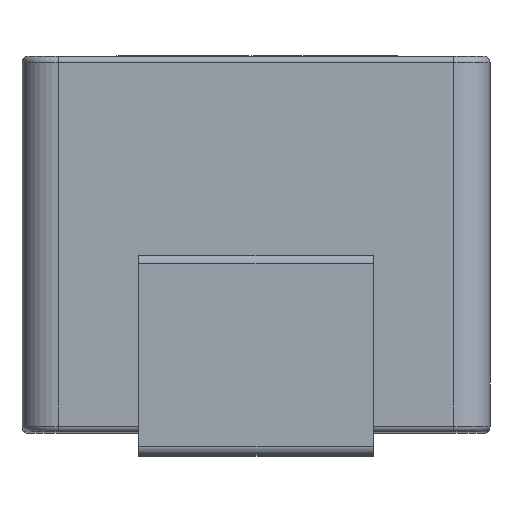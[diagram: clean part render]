
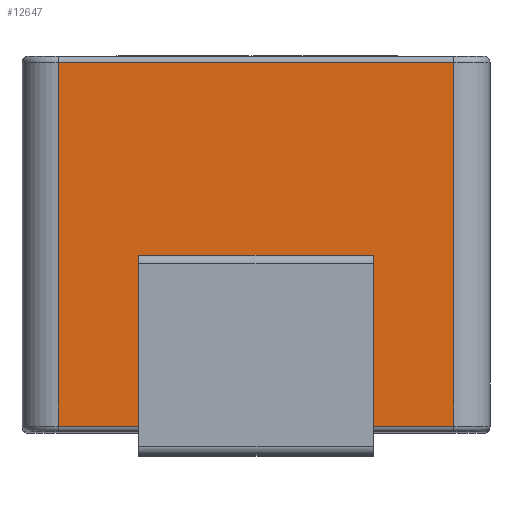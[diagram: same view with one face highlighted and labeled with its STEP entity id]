
A CAD part, top view. The second image highlights one B-rep face of the part: STEP entity #12647.
In plain terms, the highlighted planar face has unit normal (0, 0, 1) as drawn and (-1, 0, 0) by its records, which use the part's own axes.
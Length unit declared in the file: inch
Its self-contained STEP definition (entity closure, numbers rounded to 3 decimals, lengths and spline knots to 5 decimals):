
#426 = VERTEX_POINT ( 'NONE', #12191 ) ;
#480 = CARTESIAN_POINT ( 'NONE',  ( -0.36, -0.128, 0.17125 ) ) ;
#608 = CARTESIAN_POINT ( 'NONE',  ( -0.36, 0., -0.1015 ) ) ;
#697 = EDGE_CURVE ( 'NONE', #4730, #19595, #12068, .T. ) ;
#945 = EDGE_CURVE ( 'NONE', #20387, #4712, #17195, .T. ) ;
#976 = EDGE_LOOP ( 'NONE', ( #2443, #11106, #3647, #17189 ) ) ;
#1442 = ORIENTED_EDGE ( 'NONE', *, *, #945, .T. ) ;
#1758 = VECTOR ( 'NONE', #18277, 39.37008 ) ;
#1908 = CARTESIAN_POINT ( 'NONE',  ( -0.36, -0.128, 0.2025 ) ) ;
#2319 = ORIENTED_EDGE ( 'NONE', *, *, #7033, .F. ) ;
#2330 = VERTEX_POINT ( 'NONE', #608 ) ;
#2443 = ORIENTED_EDGE ( 'NONE', *, *, #697, .T. ) ;
#2965 = VECTOR ( 'NONE', #13977, 39.37008 ) ;
#3468 = DIRECTION ( 'NONE',  ( 0., -1., 0. ) ) ;
#3579 = DIRECTION ( 'NONE',  ( 0., -1., 0. ) ) ;
#3584 = CARTESIAN_POINT ( 'NONE',  ( -0.36, 0., 0.1015 ) ) ;
#3623 = VECTOR ( 'NONE', #16413, 39.37008 ) ;
#3647 = ORIENTED_EDGE ( 'NONE', *, *, #14501, .T. ) ;
#3675 = CARTESIAN_POINT ( 'NONE',  ( -0.36, 0.192, 0.2025 ) ) ;
#4016 = EDGE_CURVE ( 'NONE', #7789, #20387, #4589, .T. ) ;
#4589 = LINE ( 'NONE', #15646, #17259 ) ;
#4712 = VERTEX_POINT ( 'NONE', #3584 ) ;
#4730 = VERTEX_POINT ( 'NONE', #14629 ) ;
#5211 = PLANE ( 'NONE',  #19081 ) ;
#6196 = VECTOR ( 'NONE', #3468, 39.37008 ) ;
#6377 = CARTESIAN_POINT ( 'NONE',  ( -0.36, 0.187, 0.17125 ) ) ;
#6658 = LINE ( 'NONE', #6759, #16116 ) ;
#6759 = CARTESIAN_POINT ( 'NONE',  ( -0.36, 0.192, -0.17125 ) ) ;
#7033 = EDGE_CURVE ( 'NONE', #2330, #4712, #8742, .T. ) ;
#7711 = DIRECTION ( 'NONE',  ( 0., 1., 0. ) ) ;
#7789 = VERTEX_POINT ( 'NONE', #16334 ) ;
#8357 = VECTOR ( 'NONE', #15750, 39.37008 ) ;
#8613 = VECTOR ( 'NONE', #7711, 39.37008 ) ;
#8728 = CARTESIAN_POINT ( 'NONE',  ( -0.36, 0., 0.1015 ) ) ;
#8742 = LINE ( 'NONE', #10210, #3623 ) ;
#8900 = DIRECTION ( 'NONE',  ( 0., 1., 0. ) ) ;
#9733 = ORIENTED_EDGE ( 'NONE', *, *, #12226, .F. ) ;
#9959 = EDGE_LOOP ( 'NONE', ( #9733, #10314, #1442, #2319 ) ) ;
#10210 = CARTESIAN_POINT ( 'NONE',  ( -0.36, 0., -0.1015 ) ) ;
#10314 = ORIENTED_EDGE ( 'NONE', *, *, #4016, .T. ) ;
#11106 = ORIENTED_EDGE ( 'NONE', *, *, #12622, .T. ) ;
#11189 = DIRECTION ( 'NONE',  ( 0., 0., 1. ) ) ;
#11595 = CARTESIAN_POINT ( 'NONE',  ( -0.36, 0.187, -0.17125 ) ) ;
#11965 = CARTESIAN_POINT ( 'NONE',  ( -0.36, 0.187, 0.2025 ) ) ;
#12068 = LINE ( 'NONE', #11965, #1758 ) ;
#12191 = CARTESIAN_POINT ( 'NONE',  ( -0.36, -0.128, -0.17125 ) ) ;
#12226 = EDGE_CURVE ( 'NONE', #7789, #2330, #19152, .T. ) ;
#12622 = EDGE_CURVE ( 'NONE', #19595, #426, #6658, .T. ) ;
#12625 = VERTEX_POINT ( 'NONE', #480 ) ;
#12647 = ADVANCED_FACE ( 'NONE', ( #13058, #19349 ), #5211, .F. ) ;
#13058 = FACE_OUTER_BOUND ( 'NONE', #976, .T. ) ;
#13802 = LINE ( 'NONE', #1908, #8357 ) ;
#13977 = DIRECTION ( 'NONE',  ( 0., -1., 0. ) ) ;
#14027 = CARTESIAN_POINT ( 'NONE',  ( -0.36, 0.02, 0.1015 ) ) ;
#14501 = EDGE_CURVE ( 'NONE', #426, #12625, #13802, .T. ) ;
#14629 = CARTESIAN_POINT ( 'NONE',  ( -0.36, 0.187, 0.17125 ) ) ;
#15646 = CARTESIAN_POINT ( 'NONE',  ( -0.36, 0.02, -0.1015 ) ) ;
#15750 = DIRECTION ( 'NONE',  ( 0., 0., 1. ) ) ;
#15790 = LINE ( 'NONE', #6377, #8613 ) ;
#16116 = VECTOR ( 'NONE', #3579, 39.37008 ) ;
#16334 = CARTESIAN_POINT ( 'NONE',  ( -0.36, 0.02, -0.1015 ) ) ;
#16413 = DIRECTION ( 'NONE',  ( 0., 0., 1. ) ) ;
#16890 = DIRECTION ( 'NONE',  ( 1., 0., 0. ) ) ;
#17189 = ORIENTED_EDGE ( 'NONE', *, *, #20374, .T. ) ;
#17195 = LINE ( 'NONE', #8728, #2965 ) ;
#17259 = VECTOR ( 'NONE', #11189, 39.37008 ) ;
#17725 = CARTESIAN_POINT ( 'NONE',  ( -0.36, 0., -0.1015 ) ) ;
#18277 = DIRECTION ( 'NONE',  ( 0., 0., -1. ) ) ;
#19081 = AXIS2_PLACEMENT_3D ( 'NONE', #3675, #16890, #8900 ) ;
#19152 = LINE ( 'NONE', #17725, #6196 ) ;
#19349 = FACE_BOUND ( 'NONE', #9959, .T. ) ;
#19595 = VERTEX_POINT ( 'NONE', #11595 ) ;
#20374 = EDGE_CURVE ( 'NONE', #12625, #4730, #15790, .T. ) ;
#20387 = VERTEX_POINT ( 'NONE', #14027 ) ;
